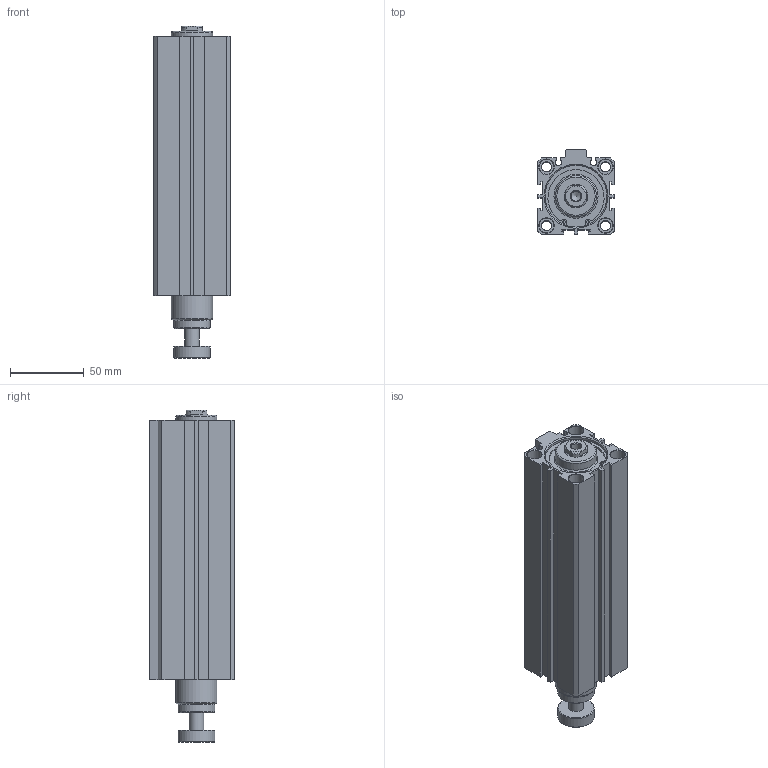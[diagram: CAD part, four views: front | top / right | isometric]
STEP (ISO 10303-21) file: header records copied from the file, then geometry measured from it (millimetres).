
FILE_DESCRIPTION((''),'2;1');
FILE_NAME('I:\3D電子目錄\氣缸\JDAR\JDAR\JDAR40\JDAR40x150.stp','2007-03-14T10:39:38',('662F206'),(''),'Autodesk Inventor 11','Autodesk Inventor 11','');
FILE_SCHEMA(('AUTOMOTIVE_DESIGN { 1 0 10303 214 1 1 1 1 }'));
Length unit declared in the file: millimetre
Products named in the file (3): JDAR40; R 形環 42
Assembly tree (3 placements, depth 2):
  JDAR40
    JDAR40
    R 形環 42  x2
Bounding box: 52 x 58 x 225.8 mm (x, y, z)
Volume: 441503.1 mm3; surface area: 81572.1 mm2
Topology: 3 solids, 3 shells, 172 faces, 405 edges, 263 vertices
Faces by surface type: plane 92, cylinder 51, cone 23, bspline 4, torus 2
Full cylindrical faces by diameter (mm): 1.9 x4, 2.2 x2, 6.8 x4, 10 x9, 25 x2, 28 x2, 42 x4, 44.5 x2
Entity records: 4475 total; most frequent: CARTESIAN_POINT 858, DIRECTION 758, ORIENTED_EDGE 634, EDGE_CURVE 317, AXIS2_PLACEMENT_3D 287, EDGE_LOOP 248, VERTEX_POINT 237, VECTOR 184
